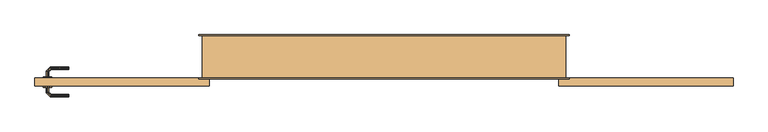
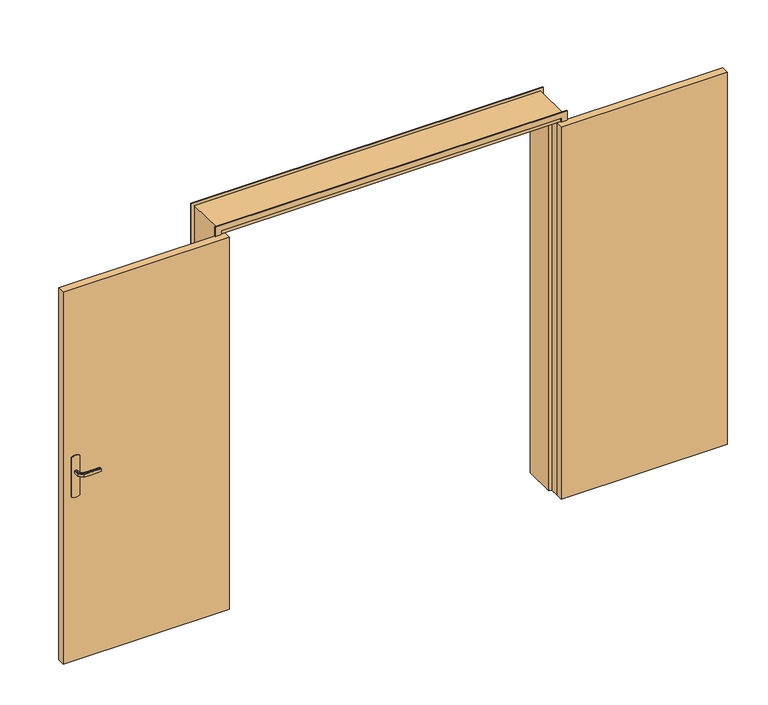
"""IFC4 building model written with IfcOpenShell, lengths in millimetres: door geometry, PP airel poubelle(1.66m x 2.04m)."""

import ifcopenshell
import ifcopenshell.guid

model = None  # the IFC model being written
_history = None  # IfcOwnerHistory: only IFC2X3 demands one
_inside = {}  # id of a spatial element -> (the spatial element, [elements in it])
_under = {}  # id of a project, library or spatial element -> (it, [spatial elements below it])
_declared = {}  # id of a project -> (the project, [libraries it declares])
_typed = {}  # id of a type object -> (the type object, [elements of that type])
_made_of = {}  # id of a material, layer set ... -> (it, [elements and type objects made of it])


def new_model(schema):
    """Start an empty IFC model of exactly this schema.

    Asked for "IFC4X3", IfcOpenShell would pick the latest addendum, in which some entities
    have other attributes; the version numbers below select the first issue.
    IFC2X3 requires an IfcOwnerHistory on every rooted entity: one is made here for all.
    """
    global model, _history
    if schema == "IFC4X3":
        model = ifcopenshell.file(schema_version=(4, 3, 0, 0))
    else:
        model = ifcopenshell.file(schema=schema)
    _inside.clear()
    _under.clear()
    _declared.clear()
    _typed.clear()
    _made_of.clear()
    _history = None
    if model.schema == "IFC2X3":
        org = make("IfcOrganization", Name="unknown")
        user = make(
            "IfcPersonAndOrganization",
            ThePerson=make("IfcPerson", FamilyName="unknown"),
            TheOrganization=org,
        )
        app = make(
            "IfcApplication",
            ApplicationDeveloper=org,
            Version="unknown",
            ApplicationFullName="unknown",
            ApplicationIdentifier="unknown",
        )
        _history = make(
            "IfcOwnerHistory",
            OwningUser=user,
            OwningApplication=app,
            ChangeAction="ADDED",
            CreationDate=0,
        )
    return model


def make(cls, **values):
    """One entity of the class cls with the attributes given. An attribute that is None is left unset."""
    return model.create_entity(
        cls, **{name: value for name, value in values.items() if value is not None}
    )


def rooted(cls, **values):
    """An entity with a GlobalId (a new one), such as an element, a storey or a relation."""
    return make(cls, GlobalId=ifcopenshell.guid.new(), OwnerHistory=_history, **values)


def si_unit(unit_type, name, prefix=None):
    """IfcSIUnit, for example si_unit("LENGTHUNIT", "METRE", prefix="MILLI")."""
    return make("IfcSIUnit", UnitType=unit_type, Prefix=prefix, Name=name)


def assignment(units):
    """IfcUnitAssignment: the units of a project."""
    return None if units is None else make("IfcUnitAssignment", Units=units)


def point(xyz):
    """IfcCartesianPoint."""
    return None if xyz is None else make("IfcCartesianPoint", Coordinates=xyz)


def direction(xyz):
    """IfcDirection."""
    return None if xyz is None else make("IfcDirection", DirectionRatios=xyz)


def frame(location, z_axis=None, x_axis=None):
    """IfcAxis2Placement3D, a coordinate frame: its origin and axes. An axis left out is left unset."""
    return make(
        "IfcAxis2Placement3D",
        Location=point(location),
        Axis=direction(z_axis),
        RefDirection=direction(x_axis),
    )


def origin():
    """The frame at (0, 0, 0) with its axes left unset."""
    return frame((0.0, 0.0, 0.0))


def origin_with_axes():
    """The frame at (0, 0, 0) with the z axis (0, 0, 1) and the x axis (1, 0, 0) written out."""
    return frame((0.0, 0.0, 0.0), z_axis=(0.0, 0.0, 1.0), x_axis=(1.0, 0.0, 0.0))


def place(relative_to, where):
    """IfcLocalPlacement: puts the frame where relative to a parent placement (None: the world)."""
    return make(
        "IfcLocalPlacement", PlacementRelTo=relative_to, RelativePlacement=where
    )


def context(
    kind, dimensions, precision=None, world=None, true_north=None, identifier=None
):
    """IfcGeometricRepresentationContext, for example the 3D "Model" context."""
    return make(
        "IfcGeometricRepresentationContext",
        ContextIdentifier=identifier,
        ContextType=kind,
        CoordinateSpaceDimension=dimensions,
        Precision=precision,
        WorldCoordinateSystem=world,
        TrueNorth=true_north,
    )


def project(units=None, contexts=None):
    """IfcProject with its units and contexts."""
    return rooted(
        "IfcProject",
        Name="project",
        RepresentationContexts=contexts,
        UnitsInContext=assignment(units),
    )


def spatial(cls, under=None, at=None, **own):
    """A site, building, storey or space (cls), placed at a placement, below another one or the project."""
    s = rooted(cls, ObjectPlacement=at, **own)
    if under is not None:
        _under.setdefault(under.id(), (under, []))[1].append(s)
    return s


def polyline(points):
    """IfcPolyline through the points."""
    return make("IfcPolyline", Points=[point(p) for p in points])


def outline(outer, holes=None, kind="AREA"):
    """IfcArbitraryClosedProfileDef: a profile drawn as a closed curve; with holes, ...WithVoids."""
    if holes is None:
        return make("IfcArbitraryClosedProfileDef", ProfileType=kind, OuterCurve=outer)
    return make(
        "IfcArbitraryProfileDefWithVoids",
        ProfileType=kind,
        OuterCurve=outer,
        InnerCurves=holes,
    )


def extrude(swept, where, along, depth):
    """IfcExtrudedAreaSolid: the profile swept, set in the frame where, extruded along a direction by depth."""
    return make(
        "IfcExtrudedAreaSolid",
        SweptArea=swept,
        Position=where,
        ExtrudedDirection=direction(along),
        Depth=depth,
    )


def faces_of(points, faces, orient=None, outer=None):
    """IfcFace entities. A face is a list of loops; a loop is a list of indices into points, from 0.

    orient and outer hold one flag for each loop. By default every Orientation is true, the
    first loop of a face is its IfcFaceOuterBound and the others are IfcFaceBound.
    """
    made = []
    for i, loops in enumerate(faces):
        bounds = []
        for j, loop in enumerate(loops):
            is_outer = j == 0 if outer is None else outer[i][j]
            bounds.append(
                make(
                    "IfcFaceOuterBound" if is_outer else "IfcFaceBound",
                    Bound=make("IfcPolyLoop", Polygon=[points[k] for k in loop]),
                    Orientation=True if orient is None else orient[i][j],
                )
            )
        made.append(make("IfcFace", Bounds=bounds))
    return made


def faceted_brep(points, faces, orient=None, outer=None, voids=None):
    """IfcFacetedBrep: a solid bounded by flat faces; with voids (closed shells), ...WithVoids."""
    shared = [point(p) for p in points]
    hull = make("IfcClosedShell", CfsFaces=faces_of(shared, faces, orient, outer))
    if voids is None:
        return make("IfcFacetedBrep", Outer=hull)
    return make(
        "IfcFacetedBrepWithVoids",
        Outer=hull,
        Voids=[
            make(cls, CfsFaces=faces_of(shared, fs, o, b)) for cls, fs, o, b in voids
        ],
    )


def shape(context_of_items, identifier, shape_type, items):
    """IfcShapeRepresentation: the items that make up one representation, for example the "Body"."""
    return make(
        "IfcShapeRepresentation",
        ContextOfItems=context_of_items,
        RepresentationIdentifier=identifier,
        RepresentationType=shape_type,
        Items=items,
    )


def source(mapping_origin, context_of_items, identifier, shape_type, items):
    """IfcRepresentationMap: a shape defined once, which mapped items show again and again."""
    return make(
        "IfcRepresentationMap",
        MappingOrigin=mapping_origin,
        MappedRepresentation=shape(context_of_items, identifier, shape_type, items),
    )


def transform(
    local_origin,
    x_axis=None,
    y_axis=None,
    z_axis=None,
    scale=None,
    scale2=None,
    scale3=None,
    uniform=True,
):
    """IfcCartesianTransformationOperator3D, or its non-uniform kind. x_axis, y_axis, z_axis: its Axis1, 2, 3."""
    if uniform:
        return make(
            "IfcCartesianTransformationOperator3D",
            Axis1=direction(x_axis),
            Axis2=direction(y_axis),
            LocalOrigin=point(local_origin),
            Scale=scale,
            Axis3=direction(z_axis),
        )
    return make(
        "IfcCartesianTransformationOperator3DnonUniform",
        Axis1=direction(x_axis),
        Axis2=direction(y_axis),
        LocalOrigin=point(local_origin),
        Scale=scale,
        Axis3=direction(z_axis),
        Scale2=scale2,
        Scale3=scale3,
    )


def mapped(mapping_source, mapping_target):
    """IfcMappedItem: shows the shape of a source again, moved by a transform."""
    return make(
        "IfcMappedItem", MappingSource=mapping_source, MappingTarget=mapping_target
    )


def made_of(thing, what):
    """Note that an element or type object is made of a material, layer set ...; save() writes the relation."""
    if what is not None:
        _made_of.setdefault(what.id(), (what, []))[1].append(thing)
    return thing


def element(
    cls,
    number,
    at=None,
    inside=None,
    cuts=None,
    type_object=None,
    material=None,
    context=None,
    identifier="Body",
    shape_type=None,
    held_by="IfcProductDefinitionShape",
    body=None,
    shapes=None,
    **own,
):
    """One element of the class cls, such as IfcWall. Its Tag is "e" and its number.

    at: its placement. inside: the storey or other place that contains it. cuts: it is an
    opening in that element (IfcRelVoidsElement). A single representation is given by context,
    identifier, shape_type and body (its items); several are given by shapes. held_by: the class
    of the entity that holds the representations. save() writes the other relations.
    """
    e = rooted(cls, Tag="e%d" % number, ObjectPlacement=at, **own)
    if body is not None:
        shapes = [shape(context, identifier, shape_type, body)]
    if shapes is not None:
        e.Representation = make(held_by, Representations=shapes)
    if inside is not None:
        _inside.setdefault(inside.id(), (inside, []))[1].append(e)
    if cuts is not None:
        rooted(
            "IfcRelVoidsElement", RelatingBuildingElement=cuts, RelatedOpeningElement=e
        )
    if type_object is not None:
        _typed.setdefault(type_object.id(), (type_object, []))[1].append(e)
    return made_of(e, material)


def aggregate(whole, parts):
    """IfcRelAggregates: a whole, such as a stair, and the parts it consists of."""
    return rooted("IfcRelAggregates", RelatingObject=whole, RelatedObjects=parts)


def save(model, path):
    """Write the relations noted so far, then the file.

    IfcRelAggregates (storeys below a building ...), IfcRelContainedInSpatialStructure (elements
    in a storey), IfcRelDefinesByType, IfcRelAssociatesMaterial and IfcRelDeclares: one each for
    every whole, place, type object, material and project.
    """
    for whole, parts in _under.values():
        aggregate(whole, parts)
    for where, things in _inside.values():
        rooted(
            "IfcRelContainedInSpatialStructure",
            RelatedElements=things,
            RelatingStructure=where,
        )
    for kind, things in _typed.values():
        rooted("IfcRelDefinesByType", RelatedObjects=things, RelatingType=kind)
    for what, things in _made_of.values():
        rooted("IfcRelAssociatesMaterial", RelatedObjects=things, RelatingMaterial=what)
    for by, libraries in _declared.values():
        rooted("IfcRelDeclares", RelatingContext=by, RelatedDefinitions=libraries)
    model.write(path)


def door_25c21e83(model_context):
    return source(origin(), model_context, "Body", "SolidModel", [
        faceted_brep([(1800.0, 0.0, 0.0), (1765.0, 0.0, 0.0), (1765.0, 40.0, 0.0), (1750.0, 40.0, 0.0), (1750.0, 200.0, 0.0), (1800.0, 200.0, 0.0), (1800.0, 200.0, 2000.0), (1800.0, 0.0, 2000.0), (1750.0, 200.0, 1950.0), (120.0, 200.0, 1950.0), (120.0, 200.0, 0.0), (70.0, 200.0, 0.0), (70.0, 200.0, 2000.0), (1750.0, 40.0, 1950.0), (1765.0, 40.0, 1965.0), (105.0, 40.0, 1965.0), (105.0, 40.0, 0.0), (120.0, 40.0, 0.0), (120.0, 40.0, 1950.0), (1765.0, 0.0, 1965.0), (70.0, 0.0, 2000.0), (70.0, 0.0, 0.0), (105.0, 0.0, 0.0), (105.0, 0.0, 1965.0)], [[[0, 1, 2, 3, 4, 5]], [[5, 6, 7, 0]], [[4, 8, 9, 10, 11, 12, 6, 5]], [[3, 13, 8, 4]], [[2, 14, 15, 16, 17, 18, 13, 3]], [[1, 19, 14, 2]], [[0, 7, 20, 21, 22, 23, 19, 1]], [[12, 11, 21, 20]], [[21, 11, 10, 17, 16, 22]], [[18, 17, 10, 9]], [[23, 22, 16, 15]], [[6, 12, 20, 7]], [[13, 18, 9, 8]], [[19, 23, 15, 14]]]),
        extrude(outline(polyline([(0.0, 1815.0), (2015.0, 1815.0), (2015.0, 55.0), (0.0, 55.0), (0.0, 85.0), (1985.0, 85.0), (1985.0, 1785.0), (0.0, 1785.0), (0.0, 1815.0)])), frame((0.0, -5.0, 0.0), z_axis=(0.0, 1.0, 0.0), x_axis=(0.0, 0.0, 1.0)), (0.0, 0.0, 1.0), 5.0),
        faceted_brep([(-662.9747013, 5.0, 1007.7804408), (-667.0252987, 5.0, 1007.7804408), (-671.0, 5.0, 1007.0), (-671.0, 5.0, 993.0), (-667.0252987, 5.0, 992.2195592), (-662.9747013, 5.0, 992.2195592), (-659.0, 5.0, 993.0), (-659.0, 5.0, 1007.0), (-667.0252987, 31.0045755, 1007.7804408), (-671.0, 32.6509507, 1007.0), (-662.9747013, 29.3267632, 1007.7804408), (-649.2986025, 43.002862, 1007.7804408), (-650.9764148, 47.0534593, 1007.7804408), (-659.0, 27.680388, 1007.0), (-659.0, 27.680388, 993.0), (-662.9747013, 29.3267632, 992.2195592), (-667.0252987, 31.0045755, 992.2195592), (-650.9764148, 47.0534593, 992.2195592), (-649.2986025, 43.002862, 992.2195592), (-671.0, 32.6509507, 993.0), (-652.62279, 51.0281607, 1007.0), (-647.6522273, 39.0281607, 1007.0), (-647.6522273, 39.0281607, 993.0), (-652.62279, 51.0281607, 993.0), (-564.9813594, 51.0281607, 1007.0), (-564.9813594, 47.0534593, 1007.7804408), (-564.9813594, 43.002862, 1007.7804408), (-564.9813594, 39.0281607, 1007.0), (-564.9813594, 39.0281607, 993.0), (-564.9813594, 43.002862, 992.2195592), (-564.9813594, 47.0534593, 992.2195592), (-564.9813594, 51.0281607, 993.0), (-607.1399809, 45.0281607, 1007.8786868), (-612.6923028, 51.0281607, 1007.0), (-606.3167933, 39.0281607, 1007.0), (-606.3167933, 39.0281607, 993.0), (-607.1399811, 45.0281608, 992.1213132), (-612.6923104, 51.0281607, 993.0)], [[[0, 1, 2, 3, 4, 5, 6, 7]], [[2, 1, 8, 9]], [[1, 0, 10, 11, 12, 8]], [[0, 7, 13, 10]], [[14, 13, 7, 6]], [[5, 15, 14, 6]], [[5, 4, 16, 17, 18, 15]], [[3, 19, 16, 4]], [[9, 19, 3, 2]], [[9, 8, 12, 20]], [[10, 13, 21, 11]], [[22, 21, 13, 14]], [[14, 15, 18, 22]], [[16, 19, 23, 17]], [[20, 23, 19, 9]], [[24, 25, 26, 27, 28, 29, 30, 31]], [[32, 25, 33]], [[33, 25, 24]], [[33, 20, 12]], [[11, 34, 32]], [[34, 11, 21]], [[27, 26, 34]], [[32, 26, 25]], [[32, 34, 26]], [[32, 33, 12]], [[11, 32, 12]], [[21, 22, 35, 28, 27, 34]], [[36, 29, 35]], [[30, 36, 37]], [[18, 35, 22]], [[29, 28, 35]], [[30, 37, 31]], [[37, 17, 23]], [[36, 17, 37]], [[36, 18, 17]], [[36, 35, 18]], [[29, 36, 30]], [[23, 20, 33, 24, 31, 37]]]),
        extrude(outline(polyline([(-725.0, -40.0), (-725.0, 0.0), (105.0, 0.0), (105.0, -40.0), (-725.0, -40.0)])), origin_with_axes(), (0.0, 0.0, 1.0), 1965.0),
        extrude(outline(polyline([(1080.0, -685.0), (870.0, -685.0), (866.0039831, -675.3527618), (864.6410162, -665.0), (866.0039831, -654.6472382), (870.0, -645.0), (1080.0, -645.0), (1083.9960169, -654.6472382), (1085.3589838, -665.0), (1083.9960169, -675.3527618), (1080.0, -685.0)])), frame((0.0, 0.0, 0.0), z_axis=(0.0, 1.0, 0.0), x_axis=(0.0, 0.0, 1.0)), (0.0, 0.0, 1.0), 5.0),
        extrude(outline(polyline([(1085.3589838, -665.0), (1083.9960169, -675.3527618), (1080.0, -685.0), (870.0, -685.0), (866.0039831, -675.3527618), (864.6410162, -665.0), (866.0039831, -654.6472382), (870.0, -645.0), (1080.0, -645.0), (1083.9960169, -654.6472382), (1085.3589838, -665.0)])), frame((0.0, -45.0, 0.0), z_axis=(0.0, 1.0, 0.0), x_axis=(0.0, 0.0, 1.0)), (0.0, 0.0, 1.0), 5.0),
        extrude(outline(polyline([(2595.0, -40.0), (1765.0, -40.0), (1765.0, 0.0), (2595.0, 0.0), (2595.0, -40.0)])), origin_with_axes(), (0.0, 0.0, 1.0), 1965.0),
        faceted_brep([(-662.9747013, -45.0, 992.2195592), (-667.0252987, -45.0, 992.2195592), (-671.0, -45.0, 993.0), (-671.0, -45.0, 1007.0), (-667.0252987, -45.0, 1007.7804408), (-662.9747013, -45.0, 1007.7804408), (-659.0, -45.0, 1007.0), (-659.0, -45.0, 993.0), (-659.0, -67.4852045, 1007.0), (-659.0, -67.4852045, 993.0), (-662.9747013, -69.1315797, 1007.7804408), (-667.0252987, -70.8093921, 1007.7804408), (-650.8389062, -86.9957845, 1007.7804408), (-649.1610938, -82.9451872, 1007.7804408), (-671.0, -72.4557673, 1007.0), (-671.0, -72.4557673, 993.0), (-667.0252987, -70.8093921, 992.2195592), (-662.9747013, -69.1315797, 992.2195592), (-649.1610938, -82.9451872, 992.2195592), (-650.8389062, -86.9957845, 992.2195592), (-647.5147186, -78.9704859, 1007.0), (-647.5147186, -78.9704859, 993.0), (-652.4852814, -90.9704859, 1007.0), (-652.4852814, -90.9704859, 993.0), (-564.9542163, -82.9451872, 1007.7804408), (-564.9542163, -86.9957845, 1007.7804408), (-564.9542163, -90.9704859, 1007.0), (-564.9542163, -90.9704859, 993.0), (-564.9542163, -86.9957845, 992.2195592), (-564.9542163, -82.9451872, 992.2195592), (-564.9542163, -78.9704859, 993.0), (-564.9542163, -78.9704859, 1007.0), (-606.2344675, -78.9704859, 1007.0), (-606.2344794, -78.9704859, 993.0), (-607.0576551, -84.9704859, 1007.8786868), (-612.5547942, -90.9704859, 1007.0), (-612.5547957, -90.9704859, 993.0), (-607.0576549, -84.9704858, 992.1213132)], [[[0, 1, 2, 3, 4, 5, 6, 7]], [[8, 9, 7, 6]], [[5, 10, 8, 6]], [[5, 4, 11, 12, 13, 10]], [[3, 14, 11, 4]], [[14, 3, 2, 15]], [[2, 1, 16, 15]], [[1, 0, 17, 18, 19, 16]], [[0, 7, 9, 17]], [[20, 21, 9, 8]], [[8, 10, 13, 20]], [[14, 22, 12, 11]], [[23, 22, 14, 15]], [[15, 16, 19, 23]], [[17, 9, 21, 18]], [[24, 25, 26, 27, 28, 29, 30, 31]], [[21, 20, 32, 31, 30, 33]], [[34, 24, 32]], [[25, 34, 35]], [[13, 32, 20]], [[24, 31, 32]], [[25, 35, 26]], [[35, 12, 22]], [[34, 12, 35]], [[34, 13, 12]], [[34, 32, 13]], [[24, 34, 25]], [[22, 23, 36, 27, 26, 35]], [[37, 28, 36]], [[36, 28, 27]], [[36, 23, 19]], [[18, 33, 37]], [[33, 18, 21]], [[30, 29, 33]], [[37, 29, 28]], [[37, 33, 29]], [[37, 36, 19]], [[18, 37, 19]]]),
        extrude(outline(polyline([(0.0, 1815.0), (2015.0, 1815.0), (2015.0, 55.0), (0.0, 55.0), (0.0, 85.0), (1985.0, 85.0), (1985.0, 1785.0), (0.0, 1785.0), (0.0, 1815.0)])), frame((0.0, 200.0, 0.0), z_axis=(0.0, 1.0, 0.0), x_axis=(0.0, 0.0, 1.0)), (0.0, 0.0, 1.0), 5.0),
    ])


if __name__ == "__main__":
    model = new_model("IFC4")
    model_context = context("Model", 3, world=origin())
    ifc_project = project(units=[si_unit("LENGTHUNIT", "METRE", prefix="MILLI")], contexts=[model_context])
    site = spatial("IfcSite", under=ifc_project)
    building = spatial("IfcBuilding", under=site)
    placement = place(None, origin())
    door_shape = door_25c21e83(model_context)
    element("IfcDoor", 1, ObjectType="PP airel poubelle(1.66m x 2.04m)", at=placement, inside=building, context=model_context, shape_type="MappedRepresentation", body=[
        mapped(door_shape, transform((0.0, 0.0, 0.0), x_axis=(1.0, 0.0, 0.0), y_axis=(0.0, 1.0, 0.0), z_axis=(0.0, 0.0, 1.0))),
    ])
    save(model, "model.ifc")
